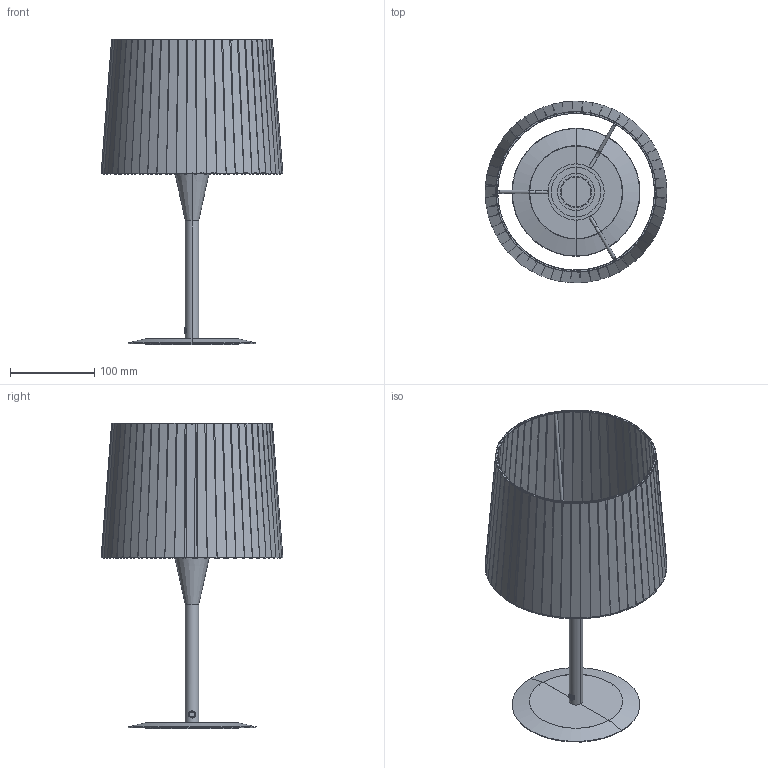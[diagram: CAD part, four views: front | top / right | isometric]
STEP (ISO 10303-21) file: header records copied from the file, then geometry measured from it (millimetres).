
FILE_DESCRIPTION(/* description */ (''),/* implementation_level */ '2;1');
FILE_NAME(/* name */ 'C:\Users\Franco Sartori E\Documents\FARO\DUPLICADO\Modelos\64316-36.stp',/* time_stamp */ '2021-02-02T12:17:35+01:00',/* author */ ('Franco Sartori E'),/* organization */ (''),/* preprocessor_version */ 'ST-DEVELOPER v18.1',/* originating_system */ 'AutoCAD Mechanical',/* authorisation */ '');
FILE_SCHEMA (('AUTOMOTIVE_DESIGN { 1 0 10303 214 3 1 1 }'));
Length unit declared in the file: millimetre
Products named in the file (5): Product; 64316_64317 - MINI TABLE  STRUCTURE-511776-_3D_; MAMBO - 2P0710 Rattan shade wall lamp-513251-_3D_; SAMBA - 2P0615 Beige ribbon textile shade-513253-_3D_; CONGA - 2P0111 White textile shade-514712-_3D_
Assembly tree (4 placements, depth 2):
  Product
    64316_64317 - MINI TABLE  STRUCTURE-511776-_3D_
    MAMBO - 2P0710 Rattan shade wall lamp-513251-_3D_
    SAMBA - 2P0615 Beige ribbon textile shade-513253-_3D_
    CONGA - 2P0111 White textile shade-514712-_3D_
Bounding box: 215.98 x 215.92 x 363.17 mm (x, y, z)
Volume: 410379.1 mm3; surface area: 383866.9 mm2
Topology: 68 solids, 68 shells, 581 faces, 1268 edges, 810 vertices
Faces by surface type: plane 503, cylinder 48, torus 18, cone 10, bspline 2
Entity records: 16804 total; most frequent: CARTESIAN_POINT 4042, ORIENTED_EDGE 2520, DIRECTION 2494, EDGE_CURVE 1260, LINE 1118, VECTOR 1118, VERTEX_POINT 806, AXIS2_PLACEMENT_3D 688
